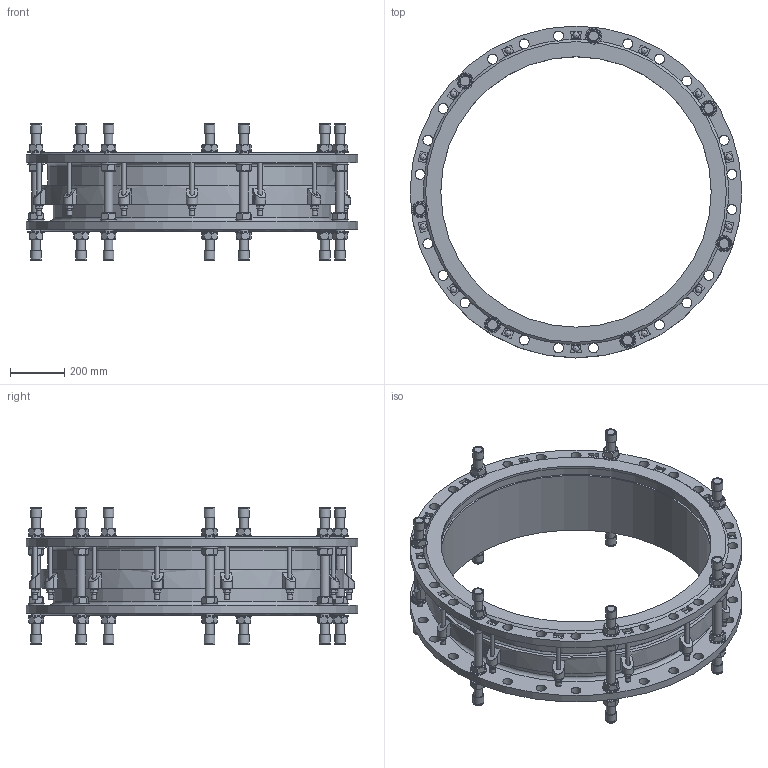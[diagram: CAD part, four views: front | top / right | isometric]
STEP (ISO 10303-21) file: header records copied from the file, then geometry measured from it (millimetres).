
FILE_DESCRIPTION(('STEP AP242'), '1');
FILE_NAME('Ìîíòàæíàÿ âñòàâêà', '', ('UNSPECIFIED'), ('UNSPECIFIED'), 'C3D Converter', 'C3D Toolkit', '');
FILE_SCHEMA(('AP242_MANAGED_MODEL_BASED_3D_ENGINEERING_MIM_LF { 1 0 10303 442 1 1 4 }'));
Length unit declared in the file: millimetre
Products named in the file (13): ШМ.М16.310
Assembly tree (137 placements, depth 2):
  (unnamed)
    (unnamed)
    (unnamed)
    (unnamed)
    (unnamed)  x28
    (unnamed)  x28
    ШМ.М16.310  x7
    (unnamed)  x14
    (unnamed)
    (unnamed)  x14
    (unnamed)  x14
    (unnamed)  x14
    (unnamed)  x14
Bounding box: 1227 x 1227 x 506.6 mm (x, y, z)
Volume: 51452710.2 mm3; surface area: 6673941.9 mm2
Topology: 137 solids, 137 shells, 1522 faces, 3454 edges, 2193 vertices
Faces by surface type: plane 900, cylinder 365, cone 202, torus 30, sphere 14, extrusion 11
Full cylindrical faces by diameter (mm): 16 x42, 17 x14, 18 x14, 19.2 x14, 30 x14, 33 x49, 33.221 x1, 34 x28, 37 x56, 39.6 x14, 60 x28, 1000 x2, 1026 x2, 1039 x2, 1065 x1, 1091 x1, 1097 x1, 1123 x1, 1227 x2
Entity records: 30134 total; most frequent: CARTESIAN_POINT 13773, DIRECTION 2734, ORIENTED_EDGE 2486, EDGE_CURVE 1243, AXIS2_PLACEMENT_3D 1084, VERTEX_POINT 896, EDGE_LOOP 735, FACE_BOUND 569
